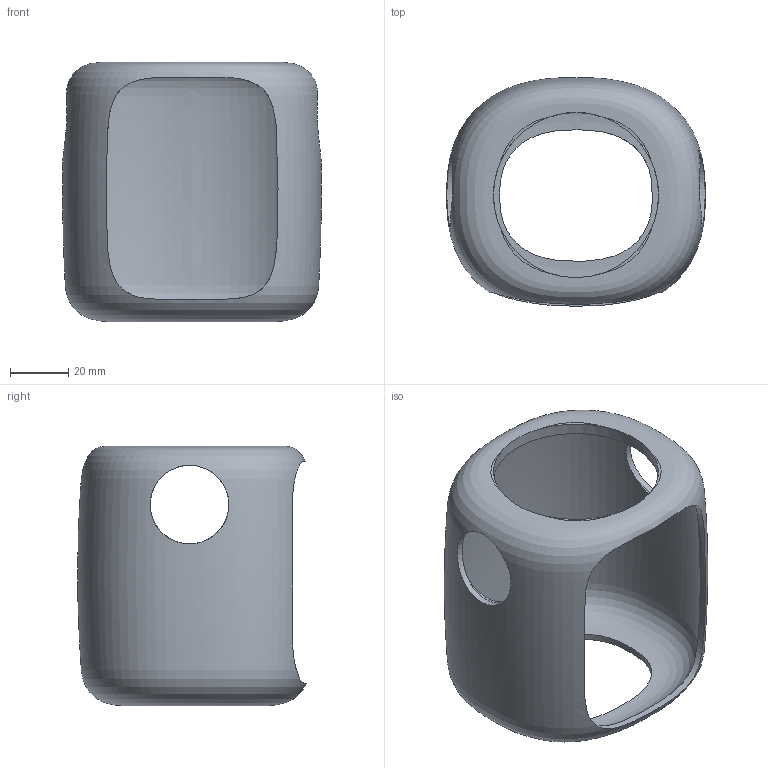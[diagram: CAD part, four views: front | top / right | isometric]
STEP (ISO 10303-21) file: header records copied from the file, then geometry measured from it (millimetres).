
FILE_DESCRIPTION(('Open CASCADE Model'),'2;1');
FILE_NAME('Open CASCADE Shape Model','2026-11-11T21:38:29',('Author'),( 'Open CASCADE'),'Open CASCADE STEP processor 8.0','build123d', 'Unknown');
FILE_SCHEMA(('AUTOMOTIVE_DESIGN { 1 0 10303 214 1 1 1 1 }'));
Products named in the file (1): SOLID
Bounding box: 88.8 x 78.42 x 89 mm (x, y, z)
Volume: 50427.3 mm3; surface area: 45186.9 mm2
Topology: 1 solids, 1 shells, 19 faces, 50 edges, 32 vertices
Faces by surface type: cylinder 8, plane 7, bspline 3, offset 1
Full cylindrical faces by diameter (mm): 27 x2, 56.7 x1, 62 x1
Entity records: 53998 total; most frequent: CARTESIAN_POINT 53154, ORIENTED_EDGE 100, PCURVE 100, DEFINITIONAL_REPRESENTATION 100, B_SPLINE_CURVE_WITH_KNOTS 95, DIRECTION 94, EDGE_CURVE 50, SURFACE_CURVE 42
